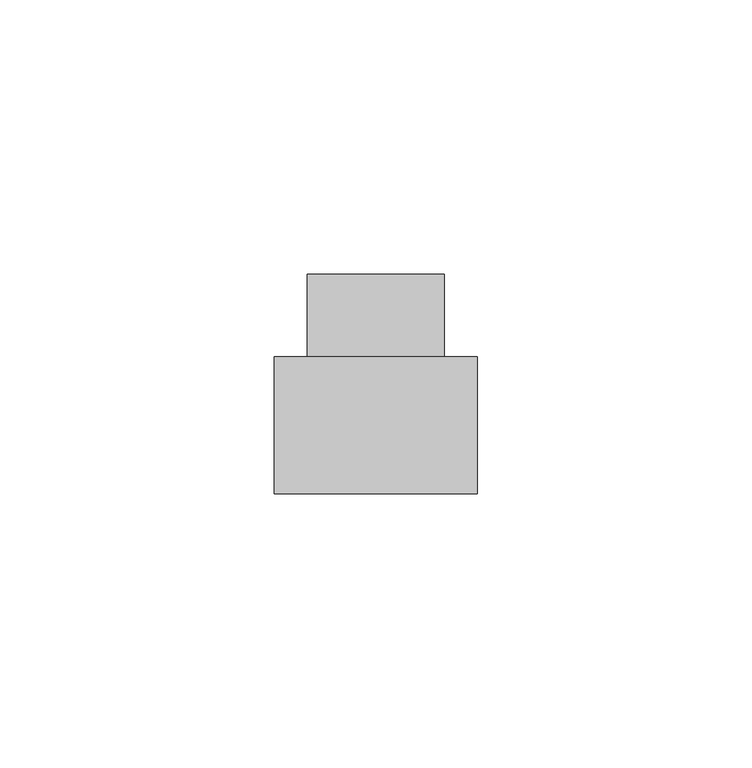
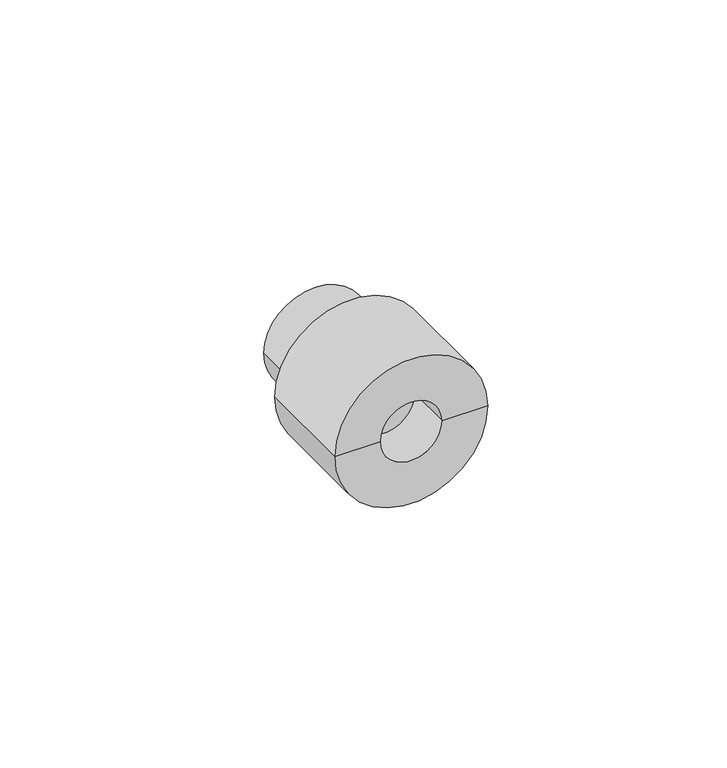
"""IFC4 building model written with IfcOpenShell, lengths in millimetres: pipe fitting geometry, NIRON RED termofusion roscado enlace rosca hembra : Estándar."""

import ifcopenshell
import ifcopenshell.guid

model = None  # the IFC model being written
_history = None  # IfcOwnerHistory: only IFC2X3 demands one
_inside = {}  # id of a spatial element -> (the spatial element, [elements in it])
_under = {}  # id of a project, library or spatial element -> (it, [spatial elements below it])
_declared = {}  # id of a project -> (the project, [libraries it declares])
_typed = {}  # id of a type object -> (the type object, [elements of that type])
_made_of = {}  # id of a material, layer set ... -> (it, [elements and type objects made of it])


def new_model(schema):
    """Start an empty IFC model of exactly this schema.

    Asked for "IFC4X3", IfcOpenShell would pick the latest addendum, in which some entities
    have other attributes; the version numbers below select the first issue.
    IFC2X3 requires an IfcOwnerHistory on every rooted entity: one is made here for all.
    """
    global model, _history
    if schema == "IFC4X3":
        model = ifcopenshell.file(schema_version=(4, 3, 0, 0))
    else:
        model = ifcopenshell.file(schema=schema)
    _inside.clear()
    _under.clear()
    _declared.clear()
    _typed.clear()
    _made_of.clear()
    _history = None
    if model.schema == "IFC2X3":
        org = make("IfcOrganization", Name="unknown")
        user = make(
            "IfcPersonAndOrganization",
            ThePerson=make("IfcPerson", FamilyName="unknown"),
            TheOrganization=org,
        )
        app = make(
            "IfcApplication",
            ApplicationDeveloper=org,
            Version="unknown",
            ApplicationFullName="unknown",
            ApplicationIdentifier="unknown",
        )
        _history = make(
            "IfcOwnerHistory",
            OwningUser=user,
            OwningApplication=app,
            ChangeAction="ADDED",
            CreationDate=0,
        )
    return model


def make(cls, **values):
    """One entity of the class cls with the attributes given. An attribute that is None is left unset."""
    return model.create_entity(
        cls, **{name: value for name, value in values.items() if value is not None}
    )


def rooted(cls, **values):
    """An entity with a GlobalId (a new one), such as an element, a storey or a relation."""
    return make(cls, GlobalId=ifcopenshell.guid.new(), OwnerHistory=_history, **values)


def si_unit(unit_type, name, prefix=None):
    """IfcSIUnit, for example si_unit("LENGTHUNIT", "METRE", prefix="MILLI")."""
    return make("IfcSIUnit", UnitType=unit_type, Prefix=prefix, Name=name)


def assignment(units):
    """IfcUnitAssignment: the units of a project."""
    return None if units is None else make("IfcUnitAssignment", Units=units)


def point(xyz):
    """IfcCartesianPoint."""
    return None if xyz is None else make("IfcCartesianPoint", Coordinates=xyz)


def direction(xyz):
    """IfcDirection."""
    return None if xyz is None else make("IfcDirection", DirectionRatios=xyz)


def frame(location, z_axis=None, x_axis=None):
    """IfcAxis2Placement3D, a coordinate frame: its origin and axes. An axis left out is left unset."""
    return make(
        "IfcAxis2Placement3D",
        Location=point(location),
        Axis=direction(z_axis),
        RefDirection=direction(x_axis),
    )


def origin():
    """The frame at (0, 0, 0) with its axes left unset."""
    return frame((0.0, 0.0, 0.0))


def place(relative_to, where):
    """IfcLocalPlacement: puts the frame where relative to a parent placement (None: the world)."""
    return make(
        "IfcLocalPlacement", PlacementRelTo=relative_to, RelativePlacement=where
    )


def context(
    kind, dimensions, precision=None, world=None, true_north=None, identifier=None
):
    """IfcGeometricRepresentationContext, for example the 3D "Model" context."""
    return make(
        "IfcGeometricRepresentationContext",
        ContextIdentifier=identifier,
        ContextType=kind,
        CoordinateSpaceDimension=dimensions,
        Precision=precision,
        WorldCoordinateSystem=world,
        TrueNorth=true_north,
    )


def project(units=None, contexts=None):
    """IfcProject with its units and contexts."""
    return rooted(
        "IfcProject",
        Name="project",
        RepresentationContexts=contexts,
        UnitsInContext=assignment(units),
    )


def spatial(cls, under=None, at=None, **own):
    """A site, building, storey or space (cls), placed at a placement, below another one or the project."""
    s = rooted(cls, ObjectPlacement=at, **own)
    if under is not None:
        _under.setdefault(under.id(), (under, []))[1].append(s)
    return s


def polyline(points):
    """IfcPolyline through the points."""
    return make("IfcPolyline", Points=[point(p) for p in points])


def circle_curve(where, radius):
    """IfcCircle in the frame where."""
    return make("IfcCircle", Position=where, Radius=radius)


def shape(context_of_items, identifier, shape_type, items):
    """IfcShapeRepresentation: the items that make up one representation, for example the "Body"."""
    return make(
        "IfcShapeRepresentation",
        ContextOfItems=context_of_items,
        RepresentationIdentifier=identifier,
        RepresentationType=shape_type,
        Items=items,
    )


def source(mapping_origin, context_of_items, identifier, shape_type, items):
    """IfcRepresentationMap: a shape defined once, which mapped items show again and again."""
    return make(
        "IfcRepresentationMap",
        MappingOrigin=mapping_origin,
        MappedRepresentation=shape(context_of_items, identifier, shape_type, items),
    )


def transform(
    local_origin,
    x_axis=None,
    y_axis=None,
    z_axis=None,
    scale=None,
    scale2=None,
    scale3=None,
    uniform=True,
):
    """IfcCartesianTransformationOperator3D, or its non-uniform kind. x_axis, y_axis, z_axis: its Axis1, 2, 3."""
    if uniform:
        return make(
            "IfcCartesianTransformationOperator3D",
            Axis1=direction(x_axis),
            Axis2=direction(y_axis),
            LocalOrigin=point(local_origin),
            Scale=scale,
            Axis3=direction(z_axis),
        )
    return make(
        "IfcCartesianTransformationOperator3DnonUniform",
        Axis1=direction(x_axis),
        Axis2=direction(y_axis),
        LocalOrigin=point(local_origin),
        Scale=scale,
        Axis3=direction(z_axis),
        Scale2=scale2,
        Scale3=scale3,
    )


def mapped(mapping_source, mapping_target):
    """IfcMappedItem: shows the shape of a source again, moved by a transform."""
    return make(
        "IfcMappedItem", MappingSource=mapping_source, MappingTarget=mapping_target
    )


def made_of(thing, what):
    """Note that an element or type object is made of a material, layer set ...; save() writes the relation."""
    if what is not None:
        _made_of.setdefault(what.id(), (what, []))[1].append(thing)
    return thing


def element(
    cls,
    number,
    at=None,
    inside=None,
    cuts=None,
    type_object=None,
    material=None,
    context=None,
    identifier="Body",
    shape_type=None,
    held_by="IfcProductDefinitionShape",
    body=None,
    shapes=None,
    **own,
):
    """One element of the class cls, such as IfcWall. Its Tag is "e" and its number.

    at: its placement. inside: the storey or other place that contains it. cuts: it is an
    opening in that element (IfcRelVoidsElement). A single representation is given by context,
    identifier, shape_type and body (its items); several are given by shapes. held_by: the class
    of the entity that holds the representations. save() writes the other relations.
    """
    e = rooted(cls, Tag="e%d" % number, ObjectPlacement=at, **own)
    if body is not None:
        shapes = [shape(context, identifier, shape_type, body)]
    if shapes is not None:
        e.Representation = make(held_by, Representations=shapes)
    if inside is not None:
        _inside.setdefault(inside.id(), (inside, []))[1].append(e)
    if cuts is not None:
        rooted(
            "IfcRelVoidsElement", RelatingBuildingElement=cuts, RelatedOpeningElement=e
        )
    if type_object is not None:
        _typed.setdefault(type_object.id(), (type_object, []))[1].append(e)
    return made_of(e, material)


def aggregate(whole, parts):
    """IfcRelAggregates: a whole, such as a stair, and the parts it consists of."""
    return rooted("IfcRelAggregates", RelatingObject=whole, RelatedObjects=parts)


def save(model, path):
    """Write the relations noted so far, then the file.

    IfcRelAggregates (storeys below a building ...), IfcRelContainedInSpatialStructure (elements
    in a storey), IfcRelDefinesByType, IfcRelAssociatesMaterial and IfcRelDeclares: one each for
    every whole, place, type object, material and project.
    """
    for whole, parts in _under.values():
        aggregate(whole, parts)
    for where, things in _inside.values():
        rooted(
            "IfcRelContainedInSpatialStructure",
            RelatedElements=things,
            RelatingStructure=where,
        )
    for kind, things in _typed.values():
        rooted("IfcRelDefinesByType", RelatedObjects=things, RelatingType=kind)
    for what, things in _made_of.values():
        rooted("IfcRelAssociatesMaterial", RelatedObjects=things, RelatingMaterial=what)
    for by, libraries in _declared.values():
        rooted("IfcRelDeclares", RelatingContext=by, RelatedDefinitions=libraries)
    model.write(path)


def plane_surface(at):
    """IfcPlane: the flat surface through the origin of the frame at, square to its z axis."""
    return make("IfcPlane", Position=at)


def cylinder_surface(at, radius):
    """IfcCylindricalSurface: all points at the distance radius from the z axis of the frame at."""
    return make("IfcCylindricalSurface", Position=at, Radius=radius)


def revolved_surface(curve, axis_point, axis_direction):
    """IfcSurfaceOfRevolution: the curve turned about the line through axis_point along axis_direction."""
    return make(
        "IfcSurfaceOfRevolution",
        SweptCurve=make("IfcArbitraryOpenProfileDef", ProfileType="CURVE", Curve=curve),
        AxisPosition=make("IfcAxis1Placement", Location=point(axis_point), Axis=direction(axis_direction)),
    )


def advanced_brep(points, edges, surfaces, faces):
    """IfcAdvancedBrep: a solid bounded by faces that lie on surfaces and meet in shared edges.

    An edge is (start, end): straight between two places in points (the first is 0);
    or (start, end, curve); or (start, end, curve, False) where it runs against its curve.
    A face is (place in surfaces, loops), or (place, loops, False) where it looks against
    its surface's normal. A loop lists edges by number (the first is 1), with a minus sign
    where the edge is run from its end to its start. The first loop is the outer one.
    """
    corners = [point(p) for p in points]
    vertices = [make("IfcVertexPoint", VertexGeometry=c) for c in corners]
    made = []
    for start, end, *more in edges:
        made.append(
            make(
                "IfcEdgeCurve",
                EdgeStart=vertices[start],
                EdgeEnd=vertices[end],
                EdgeGeometry=more[0] if more else make("IfcPolyline", Points=[corners[start], corners[end]]),
                SameSense=more[1] if len(more) > 1 else True,
            )
        )
    hull = []
    for where, loops, *sense in faces:
        bounds = []
        for j, loop in enumerate(loops):
            ring = [make("IfcOrientedEdge", EdgeElement=made[abs(k) - 1], Orientation=k > 0) for k in loop]
            bounds.append(
                make(
                    "IfcFaceOuterBound" if j == 0 else "IfcFaceBound",
                    Bound=make("IfcEdgeLoop", EdgeList=ring),
                    Orientation=True,
                )
            )
        hull.append(make("IfcAdvancedFace", Bounds=bounds, FaceSurface=surfaces[where], SameSense=sense[0] if sense else True))
    return make("IfcAdvancedBrep", Outer=make("IfcClosedShell", CfsFaces=hull))


def pipe_fitting_b06f23b3(model_context):
    return source(origin(), model_context, "Body", "AdvancedBrep", [
        advanced_brep(
        [(12.5, 40.0, 0.0), (-12.5, 40.0, 0.0), (0.0, 40.0, 0.0), (18.5, 0.0, 0.0), (-18.5, 0.0, 0.0), (-18.5, 25.0, 0.0), (18.5, 25.0, 0.0), (7.5, 0.0, 0.0), (-7.5, 0.0, 0.0), (12.5, 25.0, 0.0), (-12.5, 25.0, 0.0), (-7.5, 11.5, 0.0), (7.5, 11.5, 0.0)],
        [
            (0, 1, circle_curve(frame((0.0, 40.0, 0.0), z_axis=(0.0, 1.0, 0.0), x_axis=(-1.0, 0.0, 0.0)), 12.5)),
            (1, 2),
            (2, 0),
            (1, 0, circle_curve(frame((0.0, 40.0, 0.0), z_axis=(0.0, 1.0, 0.0), x_axis=(-1.0, 0.0, 0.0)), 12.5)),
            (3, 4, circle_curve(frame((0.0, 0.0, 0.0), z_axis=(0.0, 1.0, 0.0), x_axis=(-1.0, 0.0, 0.0)), 18.5)),
            (4, 5),
            (5, 6, circle_curve(frame((0.0, 25.0, 0.0), z_axis=(0.0, -1.0, 0.0), x_axis=(-1.0, 0.0, 0.0)), 18.5)),
            (6, 3),
            (4, 3, circle_curve(frame((0.0, 0.0, 0.0), z_axis=(0.0, 1.0, 0.0), x_axis=(-1.0, 0.0, 0.0)), 18.5)),
            (6, 5, circle_curve(frame((0.0, 25.0, 0.0), z_axis=(0.0, -1.0, 0.0), x_axis=(-1.0, 0.0, 0.0)), 18.5)),
            (3, 7),
            (7, 8, circle_curve(frame((0.0, 0.0, 0.0), z_axis=(0.0, 1.0, 0.0), x_axis=(1.0, 0.0, 0.0)), 7.5)),
            (8, 4),
            (8, 7, circle_curve(frame((0.0, 0.0, 0.0), z_axis=(0.0, 1.0, 0.0), x_axis=(1.0, 0.0, 0.0)), 7.5)),
            (0, 9),
            (9, 10, circle_curve(frame((0.0, 25.0, 0.0), z_axis=(0.0, 1.0, 0.0), x_axis=(-1.0, 0.0, 0.0)), 12.5)),
            (10, 1),
            (10, 9, circle_curve(frame((0.0, 25.0, 0.0), z_axis=(0.0, 1.0, 0.0), x_axis=(-1.0, 0.0, 0.0)), 12.5)),
            (5, 10),
            (9, 6),
            (11, 12, circle_curve(frame((0.0, 11.5, 0.0), z_axis=(0.0, -1.0, 0.0), x_axis=(1.0, 0.0, 0.0)), 7.5)),
            (12, 11, circle_curve(frame((0.0, 11.5, 0.0), z_axis=(0.0, -1.0, 0.0), x_axis=(1.0, 0.0, 0.0)), 7.5)),
            (11, 8),
            (7, 12),
        ],
        [
            plane_surface(frame((0.0, 40.0, 0.0), z_axis=(0.0, 1.0, 0.0), x_axis=(-1.0, 0.0, 0.0))),
            cylinder_surface(frame((0.0, 50.0, 0.0), z_axis=(0.0, -1.0, 0.0), x_axis=(-1.0, 0.0, 0.0)), 18.5),
            plane_surface(frame((0.0, 0.0, 0.0), z_axis=(0.0, -1.0, 0.0), x_axis=(-1.0, 0.0, 0.0))),
            cylinder_surface(frame((0.0, 50.0, 0.0), z_axis=(0.0, -1.0, 0.0), x_axis=(-1.0, 0.0, 0.0)), 12.5),
            plane_surface(frame((0.0, 25.0, 0.0), z_axis=(0.0, 1.0, 0.0), x_axis=(-1.0, 0.0, 0.0))),
            plane_surface(frame((7.5, 11.5, 0.0), z_axis=(0.0, -1.0, 0.0), x_axis=(0.0, 0.0, -1.0))),
            revolved_surface(polyline([(7.5, 0.0, 0.0), (7.5, 11.5, 0.0)]), (0.0, 11.5, 0.0), (0.0, -1.0, 0.0)),
        ],
        [
            (0, [[1, 2, 3]]),
            (0, [[-2, 4, -3]]),
            (1, [[5, 6, 7, 8]]),
            (1, [[-6, 9, -8, 10]]),
            (2, [[-5, 11, 12, 13]]),
            (2, [[-9, -13, 14, -11]]),
            (3, [[-1, 15, 16, 17]]),
            (3, [[-4, -17, 18, -15]]),
            (4, [[-7, 19, -16, 20]]),
            (4, [[-10, -20, -18, -19]]),
            (5, [[21, 22]]),
            (6, [[-21, 23, -12, 24]]),
            (6, [[-22, -24, -14, -23]]),
        ],
    ),
    ])


if __name__ == "__main__":
    model = new_model("IFC4")
    model_context = context("Model", 3, world=origin())
    ifc_project = project(units=[si_unit("LENGTHUNIT", "METRE", prefix="MILLI")], contexts=[model_context])
    site = spatial("IfcSite", under=ifc_project)
    building = spatial("IfcBuilding", under=site)
    placement = place(None, origin())
    pipe_fitting_shape = pipe_fitting_b06f23b3(model_context)
    element("IfcPipeFitting", 1, ObjectType="NIRON RED termofusion roscado enlace rosca hembra : Estándar", at=placement, inside=building, context=model_context, shape_type="MappedRepresentation", body=[
        mapped(pipe_fitting_shape, transform((0.0, 0.0, 0.0), x_axis=(1.0, 0.0, 0.0), y_axis=(0.0, 1.0, 0.0), z_axis=(0.0, 0.0, 1.0))),
    ])
    save(model, "model.ifc")
